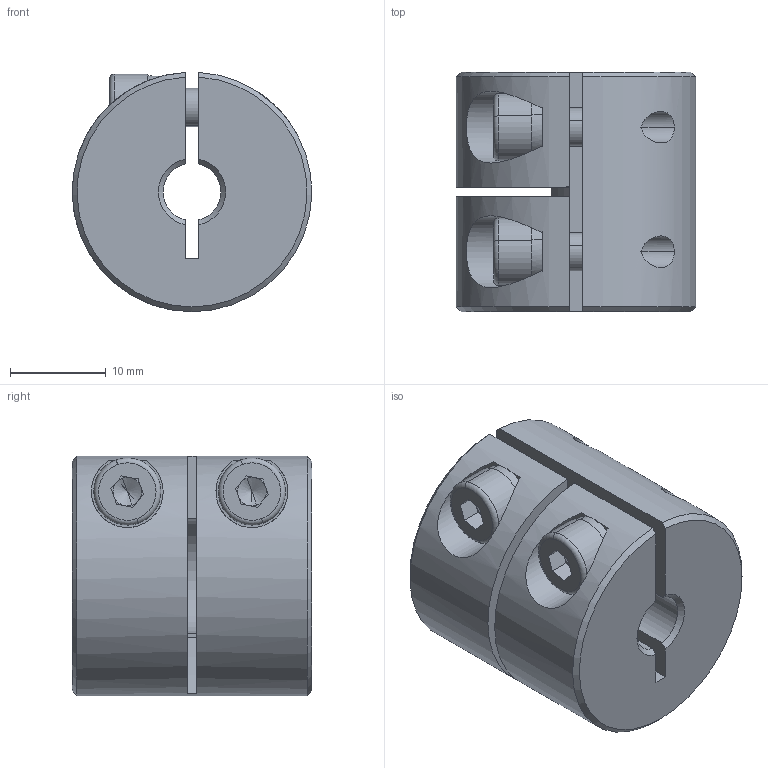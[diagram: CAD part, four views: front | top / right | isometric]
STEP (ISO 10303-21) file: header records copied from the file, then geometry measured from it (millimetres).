
FILE_DESCRIPTION (( 'STEP AP203' ), '1' );
FILE_NAME ('LL-B-D25L25-6-12.STEP', '2021-11-05T06:31:32', ( '' ), ( '' ), 'SwSTEP 2.0', 'SolidWorks 2018', '' );
FILE_SCHEMA (( 'CONFIG_CONTROL_DESIGN' ));
Length unit declared in the file: millimetre
Products named in the file (1): LL-B-D25L25-6-12
Bounding box: 24.99 x 25 x 24.98 mm (x, y, z)
Volume: 9717.9 mm3; surface area: 4955.3 mm2
Topology: 1 solids, 1 shells, 104 faces, 270 edges, 170 vertices
Faces by surface type: plane 52, cylinder 37, cone 11, torus 4
Entity records: 3471 total; most frequent: CARTESIAN_POINT 815, DIRECTION 560, ORIENTED_EDGE 532, EDGE_CURVE 266, AXIS2_PLACEMENT_3D 215, VERTEX_POINT 170, VECTOR 130, LINE 130
